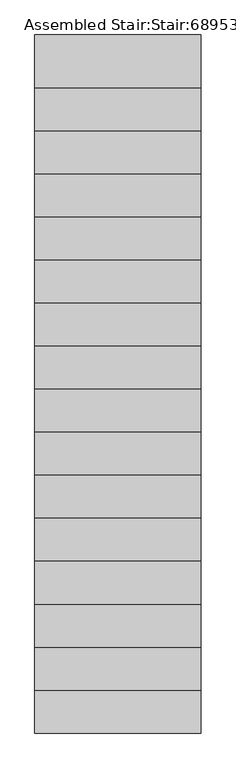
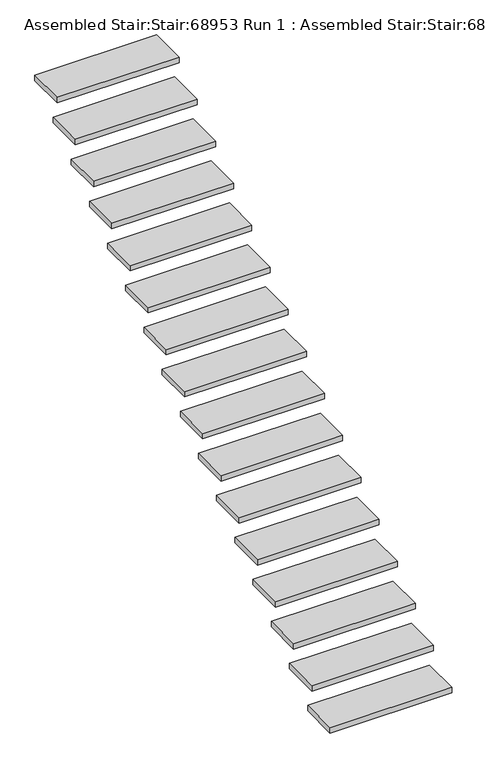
"""IFC4 building model written with IfcOpenShell, lengths in millimetres: stair geometry, Assembled Stair:Stair:68953 Run 1 : Assembled Stair:Stair:68953 Run 1."""

from ifc_helpers import new_model, si_unit, frame, origin, place, context, project, spatial, polyline, outline, extrude, source, transform, mapped, element, save


def assembled_stair_stair_68953_run_1_assembled_stair_stair_38e74e66(model_context):
    return source(origin(), model_context, "Body", "SweptSolid", [
        extrude(outline(polyline([(19349.8089026, -22024.6322236), (19349.8089026, -21754.6322236), (20199.8089026, -21754.6322236), (20199.8089026, -22024.6322236), (19349.8089026, -22024.6322236)])), frame((0.0, 0.0, 2783.5294118), z_axis=(0.0, 0.0, 1.0), x_axis=(1.0, 0.0, 0.0)), (0.0, 0.0, 1.0), 40.0),
        extrude(outline(polyline([(19349.8089026, -22244.6322236), (19349.8089026, -21974.6322236), (20199.8089026, -21974.6322236), (20199.8089026, -22244.6322236), (19349.8089026, -22244.6322236)])), frame((0.0, 0.0, 2607.0588235), z_axis=(0.0, 0.0, 1.0), x_axis=(1.0, 0.0, 0.0)), (0.0, 0.0, 1.0), 40.0),
        extrude(outline(polyline([(19349.8089026, -22464.6322236), (19349.8089026, -22194.6322236), (20199.8089026, -22194.6322236), (20199.8089026, -22464.6322236), (19349.8089026, -22464.6322236)])), frame((0.0, 0.0, 2430.5882353), z_axis=(0.0, 0.0, 1.0), x_axis=(1.0, 0.0, 0.0)), (0.0, 0.0, 1.0), 40.0),
        extrude(outline(polyline([(19349.8089026, -22684.6322236), (19349.8089026, -22414.6322236), (20199.8089026, -22414.6322236), (20199.8089026, -22684.6322236), (19349.8089026, -22684.6322236)])), frame((0.0, 0.0, 2254.1176471), z_axis=(0.0, 0.0, 1.0), x_axis=(1.0, 0.0, 0.0)), (0.0, 0.0, 1.0), 40.0),
        extrude(outline(polyline([(19349.8089026, -22904.6322236), (19349.8089026, -22634.6322236), (20199.8089026, -22634.6322236), (20199.8089026, -22904.6322236), (19349.8089026, -22904.6322236)])), frame((0.0, 0.0, 2077.6470588), z_axis=(0.0, 0.0, 1.0), x_axis=(1.0, 0.0, 0.0)), (0.0, 0.0, 1.0), 40.0),
        extrude(outline(polyline([(19349.8089026, -23124.6322236), (19349.8089026, -22854.6322236), (20199.8089026, -22854.6322236), (20199.8089026, -23124.6322236), (19349.8089026, -23124.6322236)])), frame((0.0, 0.0, 1901.1764706), z_axis=(0.0, 0.0, 1.0), x_axis=(1.0, 0.0, 0.0)), (0.0, 0.0, 1.0), 40.0),
        extrude(outline(polyline([(19349.8089026, -23344.6322236), (19349.8089026, -23074.6322236), (20199.8089026, -23074.6322236), (20199.8089026, -23344.6322236), (19349.8089026, -23344.6322236)])), frame((0.0, 0.0, 1724.7058824), z_axis=(0.0, 0.0, 1.0), x_axis=(1.0, 0.0, 0.0)), (0.0, 0.0, 1.0), 40.0),
        extrude(outline(polyline([(19349.8089026, -23564.6322236), (19349.8089026, -23294.6322236), (20199.8089026, -23294.6322236), (20199.8089026, -23564.6322236), (19349.8089026, -23564.6322236)])), frame((0.0, 0.0, 1548.2352941), z_axis=(0.0, 0.0, 1.0), x_axis=(1.0, 0.0, 0.0)), (0.0, 0.0, 1.0), 40.0),
        extrude(outline(polyline([(19349.8089026, -23784.6322236), (19349.8089026, -23514.6322236), (20199.8089026, -23514.6322236), (20199.8089026, -23784.6322236), (19349.8089026, -23784.6322236)])), frame((0.0, 0.0, 1371.7647059), z_axis=(0.0, 0.0, 1.0), x_axis=(1.0, 0.0, 0.0)), (0.0, 0.0, 1.0), 40.0),
        extrude(outline(polyline([(19349.8089026, -24004.6322236), (19349.8089026, -23734.6322236), (20199.8089026, -23734.6322236), (20199.8089026, -24004.6322236), (19349.8089026, -24004.6322236)])), frame((0.0, 0.0, 1195.2941176), z_axis=(0.0, 0.0, 1.0), x_axis=(1.0, 0.0, 0.0)), (0.0, 0.0, 1.0), 40.0),
        extrude(outline(polyline([(19349.8089026, -24224.6322236), (19349.8089026, -23954.6322236), (20199.8089026, -23954.6322236), (20199.8089026, -24224.6322236), (19349.8089026, -24224.6322236)])), frame((0.0, 0.0, 1018.8235294), z_axis=(0.0, 0.0, 1.0), x_axis=(1.0, 0.0, 0.0)), (0.0, 0.0, 1.0), 40.0),
        extrude(outline(polyline([(19349.8089026, -24444.6322236), (19349.8089026, -24174.6322236), (20199.8089026, -24174.6322236), (20199.8089026, -24444.6322236), (19349.8089026, -24444.6322236)])), frame((0.0, 0.0, 842.3529412), z_axis=(0.0, 0.0, 1.0), x_axis=(1.0, 0.0, 0.0)), (0.0, 0.0, 1.0), 40.0),
        extrude(outline(polyline([(19349.8089026, -24664.6322236), (19349.8089026, -24394.6322236), (20199.8089026, -24394.6322236), (20199.8089026, -24664.6322236), (19349.8089026, -24664.6322236)])), frame((0.0, 0.0, 665.8823529), z_axis=(0.0, 0.0, 1.0), x_axis=(1.0, 0.0, 0.0)), (0.0, 0.0, 1.0), 40.0),
        extrude(outline(polyline([(19349.8089026, -24884.6322236), (19349.8089026, -24614.6322236), (20199.8089026, -24614.6322236), (20199.8089026, -24884.6322236), (19349.8089026, -24884.6322236)])), frame((0.0, 0.0, 489.4117647), z_axis=(0.0, 0.0, 1.0), x_axis=(1.0, 0.0, 0.0)), (0.0, 0.0, 1.0), 40.0),
        extrude(outline(polyline([(19349.8089026, -25104.6322236), (19349.8089026, -24834.6322236), (20199.8089026, -24834.6322236), (20199.8089026, -25104.6322236), (19349.8089026, -25104.6322236)])), frame((0.0, 0.0, 312.9411765), z_axis=(0.0, 0.0, 1.0), x_axis=(1.0, 0.0, 0.0)), (0.0, 0.0, 1.0), 40.0),
        extrude(outline(polyline([(19349.8089026, -25324.6322236), (19349.8089026, -25054.6322236), (20199.8089026, -25054.6322236), (20199.8089026, -25324.6322236), (19349.8089026, -25324.6322236)])), frame((0.0, 0.0, 136.4705882), z_axis=(0.0, 0.0, 1.0), x_axis=(1.0, 0.0, 0.0)), (0.0, 0.0, 1.0), 40.0),
    ])


if __name__ == "__main__":
    model = new_model("IFC4")
    model_context = context("Model", 3, world=origin())
    ifc_project = project(units=[si_unit("LENGTHUNIT", "METRE", prefix="MILLI")], contexts=[model_context])
    site = spatial("IfcSite", under=ifc_project)
    building = spatial("IfcBuilding", under=site)
    placement = place(None, origin())
    assembled_stair_stair_68953_run_1_assembled_stair_stair_shape = assembled_stair_stair_68953_run_1_assembled_stair_stair_38e74e66(model_context)
    element("IfcStair", 1, ObjectType="Assembled Stair:Stair:68953 Run 1 : Assembled Stair:Stair:68953 Run 1", at=placement, inside=building, context=model_context, shape_type="MappedRepresentation", body=[
        mapped(assembled_stair_stair_68953_run_1_assembled_stair_stair_shape, transform((0.0, 0.0, 0.0), x_axis=(1.0, 0.0, 0.0), y_axis=(0.0, 1.0, 0.0), z_axis=(0.0, 0.0, 1.0))),
    ])
    save(model, "model.ifc")
